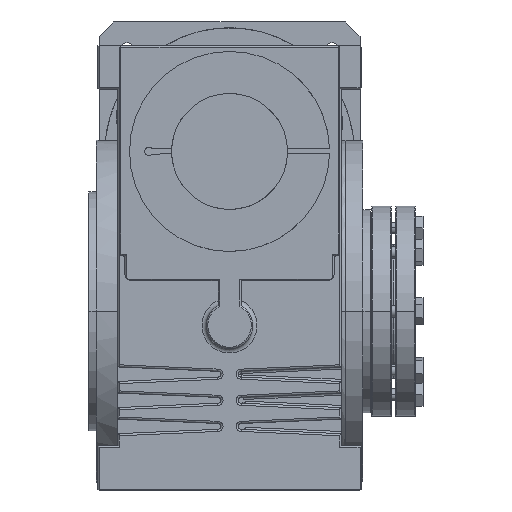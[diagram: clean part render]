
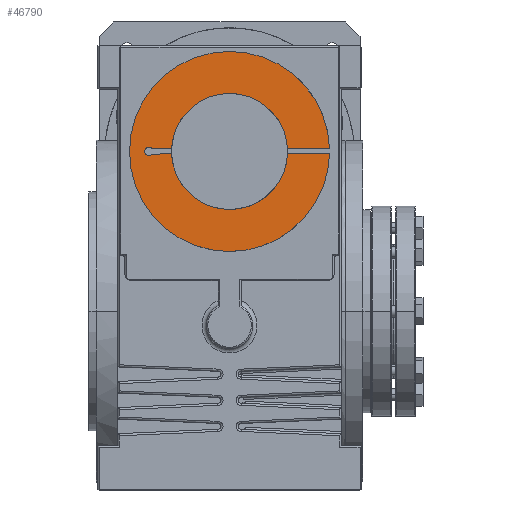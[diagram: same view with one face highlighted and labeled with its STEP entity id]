
A CAD part, top view. The second image highlights one B-rep face of the part: STEP entity #46790.
In plain terms, the highlighted planar face has unit normal (0, 0, 1).
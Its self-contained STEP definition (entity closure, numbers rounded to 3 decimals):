
#981 = VERTEX_POINT ( 'NONE', #10475 ) ;
#1430 = FACE_OUTER_BOUND ( 'NONE', #52082, .T. ) ;
#2063 = LINE ( 'NONE', #16594, #47462 ) ;
#2289 = AXIS2_PLACEMENT_3D ( 'NONE', #28425, #23622, #62289 ) ;
#2872 = CARTESIAN_POINT ( 'NONE',  ( -39.985, 111.762, 151.75 ) ) ;
#2987 = CARTESIAN_POINT ( 'NONE',  ( 39.985, 111.762, 151.75 ) ) ;
#3102 = AXIS2_PLACEMENT_3D ( 'NONE', #10199, #21983, #10927 ) ;
#3354 = DIRECTION ( 'NONE',  ( 0., 0., 1. ) ) ;
#5240 = DIRECTION ( 'NONE',  ( 1., 0., 0. ) ) ;
#5972 = DIRECTION ( 'NONE',  ( 0., 0., -1. ) ) ;
#6398 = DIRECTION ( 'NONE',  ( 1., 0., 0. ) ) ;
#7782 = EDGE_CURVE ( 'NONE', #10947, #31357, #20378, .T. ) ;
#8925 = ORIENTED_EDGE ( 'NONE', *, *, #71150, .T. ) ;
#9031 = CIRCLE ( 'NONE', #3102, 69. ) ;
#9835 = DIRECTION ( 'NONE',  ( -1., -0.004, 0. ) ) ;
#9888 = ORIENTED_EDGE ( 'NONE', *, *, #65765, .T. ) ;
#10199 = CARTESIAN_POINT ( 'NONE',  ( 0., 110., 151.75 ) ) ;
#10363 = LINE ( 'NONE', #38549, #17374 ) ;
#10475 = CARTESIAN_POINT ( 'NONE',  ( 39.999, 108.585, 151.75 ) ) ;
#10754 = ORIENTED_EDGE ( 'NONE', *, *, #48277, .T. ) ;
#10927 = DIRECTION ( 'NONE',  ( 1., 0., 0. ) ) ;
#10947 = VERTEX_POINT ( 'NONE', #25066 ) ;
#14806 = CARTESIAN_POINT ( 'NONE',  ( 68.977, 111.762, 151.75 ) ) ;
#16594 = CARTESIAN_POINT ( 'NONE',  ( -53.455, 111.762, 151.75 ) ) ;
#17374 = VECTOR ( 'NONE', #9835, 1000. ) ;
#17615 = CARTESIAN_POINT ( 'NONE',  ( 0., 110., 151.75 ) ) ;
#18525 = AXIS2_PLACEMENT_3D ( 'NONE', #17615, #55754, #6398 ) ;
#18550 = VERTEX_POINT ( 'NONE', #39891 ) ;
#18848 = EDGE_CURVE ( 'NONE', #18550, #38283, #29683, .T. ) ;
#20378 = CIRCLE ( 'NONE', #2289, 69. ) ;
#20764 = VERTEX_POINT ( 'NONE', #27562 ) ;
#21983 = DIRECTION ( 'NONE',  ( 0., 0., 1. ) ) ;
#22664 = DIRECTION ( 'NONE',  ( 1., 0., 0. ) ) ;
#22764 = DIRECTION ( 'NONE',  ( -1., -0.004, 0. ) ) ;
#23492 = EDGE_CURVE ( 'NONE', #20764, #43131, #2063, .T. ) ;
#23622 = DIRECTION ( 'NONE',  ( 0., 0., 1. ) ) ;
#23858 = VERTEX_POINT ( 'NONE', #14806 ) ;
#25066 = CARTESIAN_POINT ( 'NONE',  ( -69., 110., 151.75 ) ) ;
#25974 = ORIENTED_EDGE ( 'NONE', *, *, #72109, .T. ) ;
#26407 = CARTESIAN_POINT ( 'NONE',  ( -55.723, 110., 151.75 ) ) ;
#26540 = PLANE ( 'NONE',  #51483 ) ;
#27331 = CIRCLE ( 'NONE', #33394, 40.024 ) ;
#27562 = CARTESIAN_POINT ( 'NONE',  ( -53.455, 111.762, 151.75 ) ) ;
#28268 = DIRECTION ( 'NONE',  ( 1., 0., 0. ) ) ;
#28425 = CARTESIAN_POINT ( 'NONE',  ( 0., 110., 151.75 ) ) ;
#29683 = CIRCLE ( 'NONE', #40375, 2.872 ) ;
#31357 = VERTEX_POINT ( 'NONE', #63146 ) ;
#31422 = ORIENTED_EDGE ( 'NONE', *, *, #7782, .T. ) ;
#31841 = DIRECTION ( 'NONE',  ( 1., 0., 0. ) ) ;
#31936 = DIRECTION ( 'NONE',  ( 1., 0., 0. ) ) ;
#32440 = CIRCLE ( 'NONE', #34746, 2.872 ) ;
#33126 = CARTESIAN_POINT ( 'NONE',  ( -53.455, 108.238, 151.75 ) ) ;
#33394 = AXIS2_PLACEMENT_3D ( 'NONE', #49554, #5972, #5240 ) ;
#34479 = VECTOR ( 'NONE', #48876, 1000. ) ;
#34746 = AXIS2_PLACEMENT_3D ( 'NONE', #26407, #65319, #31936 ) ;
#34804 = VERTEX_POINT ( 'NONE', #2987 ) ;
#34898 = LINE ( 'NONE', #33126, #65403 ) ;
#35046 = CIRCLE ( 'NONE', #18525, 40.024 ) ;
#38283 = VERTEX_POINT ( 'NONE', #39054 ) ;
#38549 = CARTESIAN_POINT ( 'NONE',  ( 39.999, 108.585, 151.75 ) ) ;
#39054 = CARTESIAN_POINT ( 'NONE',  ( -58.595, 110., 151.75 ) ) ;
#39109 = CARTESIAN_POINT ( 'NONE',  ( -55.723, 110., 151.75 ) ) ;
#39891 = CARTESIAN_POINT ( 'NONE',  ( -53.455, 108.238, 151.75 ) ) ;
#40375 = AXIS2_PLACEMENT_3D ( 'NONE', #39109, #62034, #22664 ) ;
#40501 = EDGE_CURVE ( 'NONE', #23858, #10947, #9031, .T. ) ;
#41711 = EDGE_CURVE ( 'NONE', #63485, #18550, #34898, .T. ) ;
#42064 = ORIENTED_EDGE ( 'NONE', *, *, #23492, .T. ) ;
#42320 = CARTESIAN_POINT ( 'NONE',  ( 0., 110., 151.75 ) ) ;
#43131 = VERTEX_POINT ( 'NONE', #2872 ) ;
#43590 = ORIENTED_EDGE ( 'NONE', *, *, #51066, .T. ) ;
#46790 = ADVANCED_FACE ( 'NONE', ( #1430 ), #26540, .T. ) ;
#47462 = VECTOR ( 'NONE', #28268, 1000. ) ;
#48277 = EDGE_CURVE ( 'NONE', #981, #63485, #27331, .T. ) ;
#48876 = DIRECTION ( 'NONE',  ( 1., 0., 0. ) ) ;
#49554 = CARTESIAN_POINT ( 'NONE',  ( 0., 110., 151.75 ) ) ;
#51066 = EDGE_CURVE ( 'NONE', #43131, #34804, #35046, .T. ) ;
#51483 = AXIS2_PLACEMENT_3D ( 'NONE', #42320, #3354, #31841 ) ;
#51887 = ORIENTED_EDGE ( 'NONE', *, *, #41711, .T. ) ;
#52082 = EDGE_LOOP ( 'NONE', ( #10754, #51887, #57718, #9888, #42064, #43590, #25974, #56013, #31422, #8925 ) ) ;
#55754 = DIRECTION ( 'NONE',  ( 0., 0., -1. ) ) ;
#56013 = ORIENTED_EDGE ( 'NONE', *, *, #40501, .T. ) ;
#57718 = ORIENTED_EDGE ( 'NONE', *, *, #18848, .T. ) ;
#62034 = DIRECTION ( 'NONE',  ( 0., 0., -1. ) ) ;
#62289 = DIRECTION ( 'NONE',  ( 1., 0., 0. ) ) ;
#63146 = CARTESIAN_POINT ( 'NONE',  ( 68.988, 108.693, 151.75 ) ) ;
#63485 = VERTEX_POINT ( 'NONE', #66769 ) ;
#64165 = LINE ( 'NONE', #71184, #34479 ) ;
#65319 = DIRECTION ( 'NONE',  ( 0., 0., -1. ) ) ;
#65403 = VECTOR ( 'NONE', #22764, 1000. ) ;
#65765 = EDGE_CURVE ( 'NONE', #38283, #20764, #32440, .T. ) ;
#66769 = CARTESIAN_POINT ( 'NONE',  ( -39.988, 108.288, 151.75 ) ) ;
#71150 = EDGE_CURVE ( 'NONE', #31357, #981, #10363, .T. ) ;
#71184 = CARTESIAN_POINT ( 'NONE',  ( 39.985, 111.762, 151.75 ) ) ;
#72109 = EDGE_CURVE ( 'NONE', #34804, #23858, #64165, .T. ) ;
